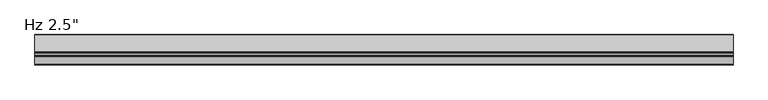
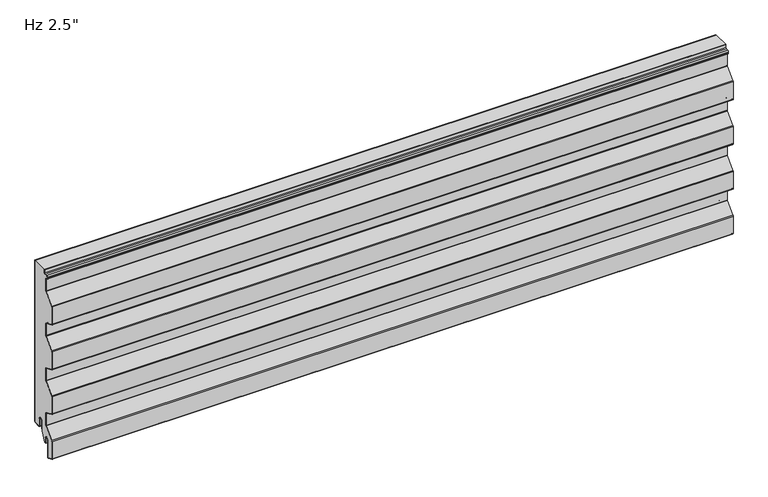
"""IFC4 building model written with IfcOpenShell, lengths in millimetres: plate geometry."""

from ifc_helpers import new_model, si_unit, point, frame, frame_2d, origin, place, context, project, spatial, polyline, circle_curve, trimmed, segment, composite_curve, outline, extrude, source, transform, mapped, element, save


def plate_0b422c3b(model_context):
    return source(origin(), model_context, "Body", "SweptSolid", [
        extrude(outline(composite_curve([segment(polyline([(-26.4011912, 19.05), (-26.4011912, -3.1976612), (-36.533822, -23.01875), (-38.6886912, -23.01875), (-38.6886912, -11.90625)]), True, "CONTINUOUS"), segment(trimmed(circle_curve(frame_2d((-43.6574412, -11.90625)), 4.96875), [point((-38.6886912, -11.90625))], [point((-48.6261912, -11.90625))], True, "CARTESIAN"), True, "CONTINUOUS"), segment(polyline([(-48.6261912, -11.90625), (-48.6261912, -48.8194049)]), True, "CONTINUOUS"), segment(trimmed(circle_curve(frame_2d((-50.0074412, -48.8194049)), 1.38125), [point((-48.6261912, -48.8194049))], [point((-50.5666208, -50.0824052))], False, "CARTESIAN"), True, "CONTINUOUS"), segment(polyline([(-50.5666208, -50.0824052), (-61.6779296, -45.1629946)]), True, "CONTINUOUS"), segment(trimmed(circle_curve(frame_2d((-61.11875, -43.8999943)), 1.38125), [point((-61.6779296, -45.1629946))], [point((-62.5, -43.8999943))], False, "CARTESIAN"), True, "CONTINUOUS"), segment(polyline([(-62.5, -43.8999943), (-62.5, -5.0536946)]), True, "CONTINUOUS"), segment(trimmed(circle_curve(frame_2d((-60.4012, -5.0536946)), 2.0988), [point((-62.5, -5.0536946))], [point((-61.9092077, -3.5939431))], False, "CARTESIAN"), True, "CONTINUOUS"), segment(polyline([(-61.9092077, -3.5939431), (-41.7145567, 17.2682996)]), True, "CONTINUOUS"), segment(trimmed(circle_curve(frame_2d((-43.5737, 19.0679503)), 2.5875), [point((-41.7145567, 17.2682996))], [point((-40.9862, 19.0679503))], True, "CARTESIAN"), True, "CONTINUOUS"), segment(polyline([(-40.9862, 19.0679503), (-40.9862, 45.5917981)]), True, "CONTINUOUS"), segment(trimmed(circle_curve(frame_2d((-43.5737, 45.5917981)), 2.5875), [point((-40.9862, 45.5917981))], [point((-42.5261871, 47.9577806))], True, "CARTESIAN"), True, "CONTINUOUS"), segment(polyline([(-42.5261871, 47.9577806), (-61.6779296, 56.4370054)]), True, "CONTINUOUS"), segment(trimmed(circle_curve(frame_2d((-61.11875, 57.7000057)), 1.38125), [point((-61.6779296, 56.4370054))], [point((-62.5, 57.7000057))], False, "CARTESIAN"), True, "CONTINUOUS"), segment(polyline([(-62.5, 57.7000057), (-62.5, 96.8367131)]), True, "CONTINUOUS"), segment(trimmed(circle_curve(frame_2d((-61.11875, 96.8367131)), 1.38125), [point((-62.5, 96.8367131))], [point((-62.1111912, 97.7973962))], False, "CARTESIAN"), True, "CONTINUOUS"), segment(polyline([(-62.1111912, 97.7973962), (-41.7145567, 118.8682996)]), True, "CONTINUOUS"), segment(trimmed(circle_curve(frame_2d((-43.5737, 120.6679503)), 2.5875), [point((-41.7145567, 118.8682996))], [point((-40.9862, 120.6679503))], True, "CARTESIAN"), True, "CONTINUOUS"), segment(polyline([(-40.9862, 120.6679503), (-40.9862, 147.1917981)]), True, "CONTINUOUS"), segment(trimmed(circle_curve(frame_2d((-43.5737, 147.1917981)), 2.5875), [point((-40.9862, 147.1917981))], [point((-42.5261871, 149.5577806))], True, "CARTESIAN"), True, "CONTINUOUS"), segment(polyline([(-42.5261871, 149.5577806), (-61.6779296, 158.0370054)]), True, "CONTINUOUS"), segment(trimmed(circle_curve(frame_2d((-61.11875, 159.3000057)), 1.38125), [point((-61.6779296, 158.0370054))], [point((-62.5, 159.3000057))], False, "CARTESIAN"), True, "CONTINUOUS"), segment(polyline([(-62.5, 159.3000057), (-62.5, 198.4367131)]), True, "CONTINUOUS"), segment(trimmed(circle_curve(frame_2d((-61.11875, 198.4367131)), 1.38125), [point((-62.5, 198.4367131))], [point((-62.1111912, 199.3973962))], False, "CARTESIAN"), True, "CONTINUOUS"), segment(polyline([(-62.1111912, 199.3973962), (-41.7145567, 220.4682996)]), True, "CONTINUOUS"), segment(trimmed(circle_curve(frame_2d((-43.5737, 222.2679503)), 2.5875), [point((-41.7145567, 220.4682996))], [point((-40.9862, 222.2679503))], True, "CARTESIAN"), True, "CONTINUOUS"), segment(polyline([(-40.9862, 222.2679503), (-40.9862, 248.7917981)]), True, "CONTINUOUS"), segment(trimmed(circle_curve(frame_2d((-43.5737, 248.7917981)), 2.5875), [point((-40.9862, 248.7917981))], [point((-42.5261871, 251.1577806))], True, "CARTESIAN"), True, "CONTINUOUS"), segment(polyline([(-42.5261871, 251.1577806), (-61.6779296, 259.6370054)]), True, "CONTINUOUS"), segment(trimmed(circle_curve(frame_2d((-61.11875, 260.9000057)), 1.38125), [point((-61.6779296, 259.6370054))], [point((-62.5, 260.9000057))], False, "CARTESIAN"), True, "CONTINUOUS"), segment(polyline([(-62.5, 260.9000057), (-62.5, 300.0367131)]), True, "CONTINUOUS"), segment(trimmed(circle_curve(frame_2d((-61.11875, 300.0367131)), 1.38125), [point((-62.5, 300.0367131))], [point((-62.1111912, 300.9973962))], False, "CARTESIAN"), True, "CONTINUOUS"), segment(polyline([(-62.1111912, 300.9973962), (-41.7145567, 322.0682996)]), True, "CONTINUOUS"), segment(trimmed(circle_curve(frame_2d((-43.5737, 323.8679503)), 2.5875), [point((-41.7145567, 322.0682996))], [point((-40.9862, 323.8679503))], True, "CARTESIAN"), True, "CONTINUOUS"), segment(polyline([(-40.9862, 323.8679503), (-40.9862, 350.3917981)]), True, "CONTINUOUS"), segment(trimmed(circle_curve(frame_2d((-43.5737, 350.3917981)), 2.5875), [point((-40.9862, 350.3917981))], [point((-42.5261871, 352.7577806))], True, "CARTESIAN"), True, "CONTINUOUS"), segment(polyline([(-42.5261871, 352.7577806), (-44.2166208, 353.5062016)]), True, "CONTINUOUS"), segment(trimmed(circle_curve(frame_2d((-43.6574412, 354.7692019)), 1.38125), [point((-44.2166208, 353.5062016))], [point((-45.0386912, 354.7692019))], False, "CARTESIAN"), True, "CONTINUOUS"), segment(polyline([(-45.0386912, 354.7692019), (-45.0386912, 357.0967085)]), True, "CONTINUOUS"), segment(trimmed(circle_curve(frame_2d((-43.6574412, 357.0967085)), 1.38125), [point((-45.0386912, 357.0967085))], [point((-43.7297302, 358.4760655))], False, "CARTESIAN"), True, "CONTINUOUS"), segment(polyline([(-43.7297302, 358.4760655), (-37.9657719, 358.7781418)]), True, "CONTINUOUS"), segment(trimmed(circle_curve(frame_2d((-38.1011912, 361.3620957)), 2.5875), [point((-37.9657719, 358.7781418))], [point((-35.5136912, 361.3620957))], True, "CARTESIAN"), True, "CONTINUOUS"), segment(polyline([(-35.5136912, 361.3620957), (-35.5136912, 368.0), (-1.0011912, 368.0), (-1.0011912, 3.175)]), True, "CONTINUOUS"), segment(trimmed(circle_curve(frame_2d((-2.3824412, 3.175)), 1.38125), [point((-1.0011912, 3.175))], [point((-2.3824412, 1.79375))], False, "CARTESIAN"), True, "CONTINUOUS"), segment(polyline([(-2.3824412, 1.79375), (-15.0824412, 1.79375)]), True, "CONTINUOUS"), segment(trimmed(circle_curve(frame_2d((-15.0824412, 3.175)), 1.38125), [point((-15.0824412, 1.79375))], [point((-16.4636912, 3.175))], False, "CARTESIAN"), True, "CONTINUOUS"), segment(polyline([(-16.4636912, 3.175), (-16.4636912, 19.05)]), True, "CONTINUOUS"), segment(trimmed(circle_curve(frame_2d((-21.4324412, 19.05)), 4.96875), [point((-16.4636912, 19.05))], [point((-26.4011912, 19.05))], True, "CARTESIAN"), True, "CONTINUOUS")], self_intersect=False)), frame((-730.0, 0.0, 0.0), z_axis=(1.0, 0.0, 0.0), x_axis=(0.0, 1.0, 0.0)), (0.0, 0.0, 1.0), 1460.0),
        extrude(outline(composite_curve([segment(polyline([(-25.4, 0.79375), (-26.4, 0.79375), (-26.4, 19.05)]), True, "CONTINUOUS"), segment(trimmed(circle_curve(frame_2d((-21.43125, 19.05)), 4.96875), [point((-26.4, 19.05))], [point((-16.4625, 19.05))], False, "CARTESIAN"), True, "CONTINUOUS"), segment(polyline([(-16.4625, 19.05), (-16.4625, 3.175)]), True, "CONTINUOUS"), segment(trimmed(circle_curve(frame_2d((-15.08125, 3.175)), 1.38125), [point((-16.4625, 3.175))], [point((-15.08125, 1.79375))], True, "CARTESIAN"), True, "CONTINUOUS"), segment(polyline([(-15.08125, 1.79375), (-2.38125, 1.79375)]), True, "CONTINUOUS"), segment(trimmed(circle_curve(frame_2d((-2.38125, 3.175)), 1.38125), [point((-2.38125, 1.79375))], [point((-1.0, 3.175))], True, "CARTESIAN"), True, "CONTINUOUS"), segment(polyline([(-1.0, 3.175), (-1.0, 368.0), (0.0, 368.0), (0.0, 3.175)]), True, "CONTINUOUS"), segment(trimmed(circle_curve(frame_2d((-2.38125, 3.175)), 2.38125), [point((0.0, 3.175))], [point((-2.38125, 0.79375))], False, "CARTESIAN"), True, "CONTINUOUS"), segment(polyline([(-2.38125, 0.79375), (-15.08125, 0.79375)]), True, "CONTINUOUS"), segment(trimmed(circle_curve(frame_2d((-15.08125, 3.175)), 2.38125), [point((-15.08125, 0.79375))], [point((-17.4625, 3.175))], False, "CARTESIAN"), True, "CONTINUOUS"), segment(polyline([(-17.4625, 3.175), (-17.4625, 19.05)]), True, "CONTINUOUS"), segment(trimmed(circle_curve(frame_2d((-21.43125, 19.05)), 3.96875), [point((-17.4625, 19.05))], [point((-25.4, 19.05))], True, "CARTESIAN"), True, "CONTINUOUS"), segment(polyline([(-25.4, 19.05), (-25.4, 0.79375)]), True, "CONTINUOUS")], self_intersect=False)), frame((-730.0, 0.0, 0.0), z_axis=(1.0, 0.0, 0.0), x_axis=(0.0, 1.0, 0.0)), (0.0, 0.0, 1.0), 1460.0),
        extrude(outline(composite_curve([segment(polyline([(-47.6261912, -11.90625), (-47.6261912, -48.8194049)]), True, "CONTINUOUS"), segment(trimmed(circle_curve(frame_2d((-50.0074412, -48.8194049)), 2.38125), [point((-47.6261912, -48.8194049))], [point((-50.9714567, -50.9967946))], False, "CARTESIAN"), True, "CONTINUOUS"), segment(polyline([(-50.9714567, -50.9967946), (-62.0827655, -46.0773839)]), True, "CONTINUOUS"), segment(trimmed(circle_curve(frame_2d((-61.11875, -43.8999943)), 2.38125), [point((-62.0827655, -46.0773839))], [point((-63.5, -43.8999943))], False, "CARTESIAN"), True, "CONTINUOUS"), segment(polyline([(-63.5, -43.8999943), (-63.5, -5.0536946)]), True, "CONTINUOUS"), segment(trimmed(circle_curve(frame_2d((-60.4012, -5.0536946)), 3.0988), [point((-63.5, -5.0536946))], [point((-62.6277172, -2.8984259))], False, "CARTESIAN"), True, "CONTINUOUS"), segment(polyline([(-62.6277172, -2.8984259), (-42.4330662, 17.9638168)]), True, "CONTINUOUS"), segment(trimmed(circle_curve(frame_2d((-43.5737, 19.0679503)), 1.5875), [point((-42.4330662, 17.9638168))], [point((-41.9862, 19.0679503))], True, "CARTESIAN"), True, "CONTINUOUS"), segment(polyline([(-41.9862, 19.0679503), (-41.9862, 45.5917981)]), True, "CONTINUOUS"), segment(trimmed(circle_curve(frame_2d((-43.5737, 45.5917981)), 1.5875), [point((-41.9862, 45.5917981))], [point((-42.931023, 47.0433912))], True, "CARTESIAN"), True, "CONTINUOUS"), segment(polyline([(-42.931023, 47.0433912), (-62.0827655, 55.5226161)]), True, "CONTINUOUS"), segment(trimmed(circle_curve(frame_2d((-61.11875, 57.7000057)), 2.38125), [point((-62.0827655, 55.5226161))], [point((-63.5, 57.7000057))], False, "CARTESIAN"), True, "CONTINUOUS"), segment(polyline([(-63.5, 57.7000057), (-63.5, 96.8367131)]), True, "CONTINUOUS"), segment(trimmed(circle_curve(frame_2d((-61.11875, 96.8367131)), 2.38125), [point((-63.5, 96.8367131))], [point((-62.8297007, 98.4929134))], False, "CARTESIAN"), True, "CONTINUOUS"), segment(polyline([(-62.8297007, 98.4929134), (-42.4330662, 119.5638168)]), True, "CONTINUOUS"), segment(trimmed(circle_curve(frame_2d((-43.5737, 120.6679503)), 1.5875), [point((-42.4330662, 119.5638168))], [point((-41.9862, 120.6679503))], True, "CARTESIAN"), True, "CONTINUOUS"), segment(polyline([(-41.9862, 120.6679503), (-41.9862, 147.1917981)]), True, "CONTINUOUS"), segment(trimmed(circle_curve(frame_2d((-43.5737, 147.1917981)), 1.5875), [point((-41.9862, 147.1917981))], [point((-42.931023, 148.6433912))], True, "CARTESIAN"), True, "CONTINUOUS"), segment(polyline([(-42.931023, 148.6433912), (-62.0827655, 157.1226161)]), True, "CONTINUOUS"), segment(trimmed(circle_curve(frame_2d((-61.11875, 159.3000057)), 2.38125), [point((-62.0827655, 157.1226161))], [point((-63.5, 159.3000057))], False, "CARTESIAN"), True, "CONTINUOUS"), segment(polyline([(-63.5, 159.3000057), (-63.5, 198.4367131)]), True, "CONTINUOUS"), segment(trimmed(circle_curve(frame_2d((-61.11875, 198.4367131)), 2.38125), [point((-63.5, 198.4367131))], [point((-62.8297007, 200.0929134))], False, "CARTESIAN"), True, "CONTINUOUS"), segment(polyline([(-62.8297007, 200.0929134), (-42.4330662, 221.1638168)]), True, "CONTINUOUS"), segment(trimmed(circle_curve(frame_2d((-43.5737, 222.2679503)), 1.5875), [point((-42.4330662, 221.1638168))], [point((-41.9862, 222.2679503))], True, "CARTESIAN"), True, "CONTINUOUS"), segment(polyline([(-41.9862, 222.2679503), (-41.9862, 248.7917981)]), True, "CONTINUOUS"), segment(trimmed(circle_curve(frame_2d((-43.5737, 248.7917981)), 1.5875), [point((-41.9862, 248.7917981))], [point((-42.931023, 250.2433912))], True, "CARTESIAN"), True, "CONTINUOUS"), segment(polyline([(-42.931023, 250.2433912), (-62.0827655, 258.7226161)]), True, "CONTINUOUS"), segment(trimmed(circle_curve(frame_2d((-61.11875, 260.9000057)), 2.38125), [point((-62.0827655, 258.7226161))], [point((-63.5, 260.9000057))], False, "CARTESIAN"), True, "CONTINUOUS"), segment(polyline([(-63.5, 260.9000057), (-63.5, 300.0367131)]), True, "CONTINUOUS"), segment(trimmed(circle_curve(frame_2d((-61.11875, 300.0367131)), 2.38125), [point((-63.5, 300.0367131))], [point((-62.8297007, 301.6929134))], False, "CARTESIAN"), True, "CONTINUOUS"), segment(polyline([(-62.8297007, 301.6929134), (-42.4330662, 322.7638168)]), True, "CONTINUOUS"), segment(trimmed(circle_curve(frame_2d((-43.5737, 323.8679503)), 1.5875), [point((-42.4330662, 322.7638168))], [point((-41.9862, 323.8679503))], True, "CARTESIAN"), True, "CONTINUOUS"), segment(polyline([(-41.9862, 323.8679503), (-41.9862, 350.3917981)]), True, "CONTINUOUS"), segment(trimmed(circle_curve(frame_2d((-43.5737, 350.3917981)), 1.5875), [point((-41.9862, 350.3917981))], [point((-42.931023, 351.8433912))], True, "CARTESIAN"), True, "CONTINUOUS"), segment(polyline([(-42.931023, 351.8433912), (-44.6214567, 352.5918123)]), True, "CONTINUOUS"), segment(trimmed(circle_curve(frame_2d((-43.6574412, 354.7692019)), 2.38125), [point((-44.6214567, 352.5918123))], [point((-46.0386912, 354.7692019))], False, "CARTESIAN"), True, "CONTINUOUS"), segment(polyline([(-46.0386912, 354.7692019), (-46.0386912, 357.0967085)]), True, "CONTINUOUS"), segment(trimmed(circle_curve(frame_2d((-43.6574412, 357.0967085)), 2.38125), [point((-46.0386912, 357.0967085))], [point((-43.7820662, 359.4746951))], False, "CARTESIAN"), True, "CONTINUOUS"), segment(polyline([(-43.7820662, 359.4746951), (-38.0181078, 359.7767713)]), True, "CONTINUOUS"), segment(trimmed(circle_curve(frame_2d((-38.1011912, 361.3620957)), 1.5875), [point((-38.0181078, 359.7767713))], [point((-36.5136912, 361.3620957))], True, "CARTESIAN"), True, "CONTINUOUS"), segment(polyline([(-36.5136912, 361.3620957), (-36.5136912, 368.0), (-35.5136912, 368.0), (-35.5136912, 361.3620957)]), True, "CONTINUOUS"), segment(trimmed(circle_curve(frame_2d((-38.1011912, 361.3620957)), 2.5875), [point((-35.5136912, 361.3620957))], [point((-37.9657719, 358.7781418))], False, "CARTESIAN"), True, "CONTINUOUS"), segment(polyline([(-37.9657719, 358.7781418), (-43.7297302, 358.4760655)]), True, "CONTINUOUS"), segment(trimmed(circle_curve(frame_2d((-43.6574412, 357.0967085)), 1.38125), [point((-43.7297302, 358.4760655))], [point((-45.0386912, 357.0967085))], True, "CARTESIAN"), True, "CONTINUOUS"), segment(polyline([(-45.0386912, 357.0967085), (-45.0386912, 354.7692019)]), True, "CONTINUOUS"), segment(trimmed(circle_curve(frame_2d((-43.6574412, 354.7692019)), 1.38125), [point((-45.0386912, 354.7692019))], [point((-44.2166208, 353.5062016))], True, "CARTESIAN"), True, "CONTINUOUS"), segment(polyline([(-44.2166208, 353.5062016), (-42.5261871, 352.7577806)]), True, "CONTINUOUS"), segment(trimmed(circle_curve(frame_2d((-43.5737, 350.3917981)), 2.5875), [point((-42.5261871, 352.7577806))], [point((-40.9862, 350.3917981))], False, "CARTESIAN"), True, "CONTINUOUS"), segment(polyline([(-40.9862, 350.3917981), (-40.9862, 323.8679503)]), True, "CONTINUOUS"), segment(trimmed(circle_curve(frame_2d((-43.5737, 323.8679503)), 2.5875), [point((-40.9862, 323.8679503))], [point((-41.7145567, 322.0682996))], False, "CARTESIAN"), True, "CONTINUOUS"), segment(polyline([(-41.7145567, 322.0682996), (-62.1111912, 300.9973962)]), True, "CONTINUOUS"), segment(trimmed(circle_curve(frame_2d((-61.11875, 300.0367131)), 1.38125), [point((-62.1111912, 300.9973962))], [point((-62.5, 300.0367131))], True, "CARTESIAN"), True, "CONTINUOUS"), segment(polyline([(-62.5, 300.0367131), (-62.5, 260.9000057)]), True, "CONTINUOUS"), segment(trimmed(circle_curve(frame_2d((-61.11875, 260.9000057)), 1.38125), [point((-62.5, 260.9000057))], [point((-61.6779296, 259.6370054))], True, "CARTESIAN"), True, "CONTINUOUS"), segment(polyline([(-61.6779296, 259.6370054), (-42.5261871, 251.1577806)]), True, "CONTINUOUS"), segment(trimmed(circle_curve(frame_2d((-43.5737, 248.7917981)), 2.5875), [point((-42.5261871, 251.1577806))], [point((-40.9862, 248.7917981))], False, "CARTESIAN"), True, "CONTINUOUS"), segment(polyline([(-40.9862, 248.7917981), (-40.9862, 222.2679503)]), True, "CONTINUOUS"), segment(trimmed(circle_curve(frame_2d((-43.5737, 222.2679503)), 2.5875), [point((-40.9862, 222.2679503))], [point((-41.7145567, 220.4682996))], False, "CARTESIAN"), True, "CONTINUOUS"), segment(polyline([(-41.7145567, 220.4682996), (-62.1111912, 199.3973962)]), True, "CONTINUOUS"), segment(trimmed(circle_curve(frame_2d((-61.11875, 198.4367131)), 1.38125), [point((-62.1111912, 199.3973962))], [point((-62.5, 198.4367131))], True, "CARTESIAN"), True, "CONTINUOUS"), segment(polyline([(-62.5, 198.4367131), (-62.5, 159.3000057)]), True, "CONTINUOUS"), segment(trimmed(circle_curve(frame_2d((-61.11875, 159.3000057)), 1.38125), [point((-62.5, 159.3000057))], [point((-61.6779296, 158.0370054))], True, "CARTESIAN"), True, "CONTINUOUS"), segment(polyline([(-61.6779296, 158.0370054), (-42.5261871, 149.5577806)]), True, "CONTINUOUS"), segment(trimmed(circle_curve(frame_2d((-43.5737, 147.1917981)), 2.5875), [point((-42.5261871, 149.5577806))], [point((-40.9862, 147.1917981))], False, "CARTESIAN"), True, "CONTINUOUS"), segment(polyline([(-40.9862, 147.1917981), (-40.9862, 120.6679503)]), True, "CONTINUOUS"), segment(trimmed(circle_curve(frame_2d((-43.5737, 120.6679503)), 2.5875), [point((-40.9862, 120.6679503))], [point((-41.7145567, 118.8682996))], False, "CARTESIAN"), True, "CONTINUOUS"), segment(polyline([(-41.7145567, 118.8682996), (-62.1111912, 97.7973962)]), True, "CONTINUOUS"), segment(trimmed(circle_curve(frame_2d((-61.11875, 96.8367131)), 1.38125), [point((-62.1111912, 97.7973962))], [point((-62.5, 96.8367131))], True, "CARTESIAN"), True, "CONTINUOUS"), segment(polyline([(-62.5, 96.8367131), (-62.5, 57.7000057)]), True, "CONTINUOUS"), segment(trimmed(circle_curve(frame_2d((-61.11875, 57.7000057)), 1.38125), [point((-62.5, 57.7000057))], [point((-61.6779296, 56.4370054))], True, "CARTESIAN"), True, "CONTINUOUS"), segment(polyline([(-61.6779296, 56.4370054), (-42.5261871, 47.9577806)]), True, "CONTINUOUS"), segment(trimmed(circle_curve(frame_2d((-43.5737, 45.5917981)), 2.5875), [point((-42.5261871, 47.9577806))], [point((-40.9862, 45.5917981))], False, "CARTESIAN"), True, "CONTINUOUS"), segment(polyline([(-40.9862, 45.5917981), (-40.9862, 19.0679503)]), True, "CONTINUOUS"), segment(trimmed(circle_curve(frame_2d((-43.5737, 19.0679503)), 2.5875), [point((-40.9862, 19.0679503))], [point((-41.7145567, 17.2682996))], False, "CARTESIAN"), True, "CONTINUOUS"), segment(polyline([(-41.7145567, 17.2682996), (-61.9092077, -3.5939431)]), True, "CONTINUOUS"), segment(trimmed(circle_curve(frame_2d((-60.4012, -5.0536946)), 2.0988), [point((-61.9092077, -3.5939431))], [point((-62.5, -5.0536946))], True, "CARTESIAN"), True, "CONTINUOUS"), segment(polyline([(-62.5, -5.0536946), (-62.5, -43.8999943)]), True, "CONTINUOUS"), segment(trimmed(circle_curve(frame_2d((-61.11875, -43.8999943)), 1.38125), [point((-62.5, -43.8999943))], [point((-61.6779296, -45.1629946))], True, "CARTESIAN"), True, "CONTINUOUS"), segment(polyline([(-61.6779296, -45.1629946), (-50.5666208, -50.0824052)]), True, "CONTINUOUS"), segment(trimmed(circle_curve(frame_2d((-50.0074412, -48.8194049)), 1.38125), [point((-50.5666208, -50.0824052))], [point((-48.6261912, -48.8194049))], True, "CARTESIAN"), True, "CONTINUOUS"), segment(polyline([(-48.6261912, -48.8194049), (-48.6261912, -11.90625)]), True, "CONTINUOUS"), segment(trimmed(circle_curve(frame_2d((-43.6574412, -11.90625)), 4.96875), [point((-48.6261912, -11.90625))], [point((-38.6886912, -11.90625))], False, "CARTESIAN"), True, "CONTINUOUS"), segment(polyline([(-38.6886912, -11.90625), (-38.6886912, -23.01875), (-39.6886912, -23.01875), (-39.6886912, -11.90625)]), True, "CONTINUOUS"), segment(trimmed(circle_curve(frame_2d((-43.6574412, -11.90625)), 3.96875), [point((-39.6886912, -11.90625))], [point((-47.6261912, -11.90625))], True, "CARTESIAN"), True, "CONTINUOUS")], self_intersect=False)), frame((-730.0, 0.0, 0.0), z_axis=(1.0, 0.0, 0.0), x_axis=(0.0, 1.0, 0.0)), (0.0, 0.0, 1.0), 1460.0),
    ])


if __name__ == "__main__":
    model = new_model("IFC4")
    model_context = context("Model", 3, world=origin())
    ifc_project = project(units=[si_unit("LENGTHUNIT", "METRE", prefix="MILLI")], contexts=[model_context])
    site = spatial("IfcSite", under=ifc_project)
    building = spatial("IfcBuilding", under=site)
    placement = place(None, origin())
    plate_shape = plate_0b422c3b(model_context)
    element("IfcPlate", 1, ObjectType="KIP-16-DWR-R19-CP-Hz-S : Hz 2.5\"", at=placement, inside=building, context=model_context, shape_type="MappedRepresentation", body=[
        mapped(plate_shape, transform((0.0, 0.0, 0.0), x_axis=(1.0, 0.0, 0.0), y_axis=(0.0, 1.0, 0.0), z_axis=(0.0, 0.0, 1.0))),
    ])
    save(model, "model.ifc")
